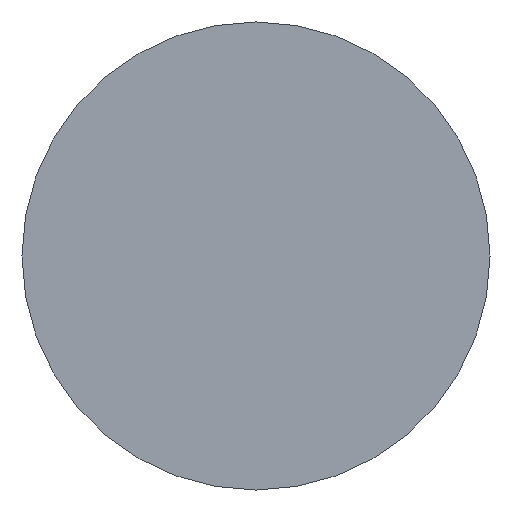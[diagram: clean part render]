
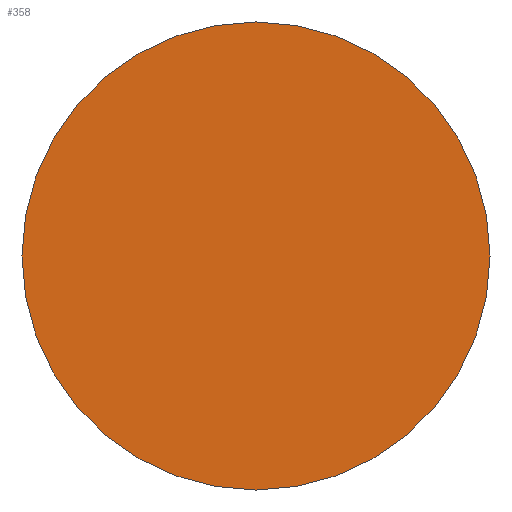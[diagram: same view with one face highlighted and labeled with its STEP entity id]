
A CAD part, left-side view. The second image highlights one B-rep face of the part: STEP entity #358.
In plain terms, the highlighted planar face has unit normal (-1, 0, 0).
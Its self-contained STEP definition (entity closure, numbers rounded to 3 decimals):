
#47 = DIRECTION ( 'NONE',  ( 1., 0., 0. ) ) ;
#98 = EDGE_CURVE ( 'NONE', #194, #415, #192, .T. ) ;
#106 = DIRECTION ( 'NONE',  ( 0., 0., -1. ) ) ;
#152 = EDGE_LOOP ( 'NONE', ( #420, #414 ) ) ;
#167 = EDGE_CURVE ( 'NONE', #415, #194, #437, .T. ) ;
#192 = CIRCLE ( 'NONE', #508, 12.5 ) ;
#194 = VERTEX_POINT ( 'NONE', #564 ) ;
#224 = DIRECTION ( 'NONE',  ( -1., 0., 0. ) ) ;
#251 = PLANE ( 'NONE',  #640 ) ;
#334 = FACE_OUTER_BOUND ( 'NONE', #152, .T. ) ;
#343 = DIRECTION ( 'NONE',  ( 0., 0., 1. ) ) ;
#346 = CARTESIAN_POINT ( 'NONE',  ( 0., 0., 0. ) ) ;
#357 = DIRECTION ( 'NONE',  ( -1., 0., 0. ) ) ;
#358 = ADVANCED_FACE ( 'NONE', ( #334 ), #251, .F. ) ;
#404 = CARTESIAN_POINT ( 'NONE',  ( 0., 0., 0. ) ) ;
#414 = ORIENTED_EDGE ( 'NONE', *, *, #167, .T. ) ;
#415 = VERTEX_POINT ( 'NONE', #497 ) ;
#418 = DIRECTION ( 'NONE',  ( 0., 0., 1. ) ) ;
#420 = ORIENTED_EDGE ( 'NONE', *, *, #98, .T. ) ;
#437 = CIRCLE ( 'NONE', #690, 12.5 ) ;
#497 = CARTESIAN_POINT ( 'NONE',  ( 0., 0., -12.5 ) ) ;
#508 = AXIS2_PLACEMENT_3D ( 'NONE', #346, #224, #418 ) ;
#558 = CARTESIAN_POINT ( 'NONE',  ( 0., 0., 0. ) ) ;
#564 = CARTESIAN_POINT ( 'NONE',  ( 0., 0., 12.5 ) ) ;
#640 = AXIS2_PLACEMENT_3D ( 'NONE', #404, #47, #106 ) ;
#690 = AXIS2_PLACEMENT_3D ( 'NONE', #558, #357, #343 ) ;
